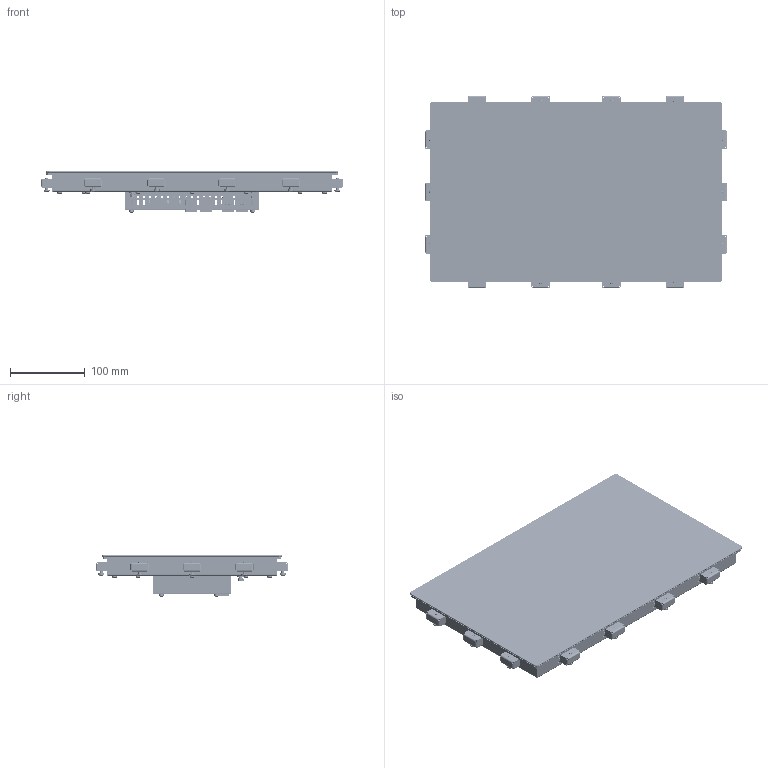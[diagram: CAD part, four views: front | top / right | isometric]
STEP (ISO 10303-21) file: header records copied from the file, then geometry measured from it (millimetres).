
FILE_DESCRIPTION (( 'STEP AP214' ), '1' );
FILE_NAME ('DC2115_BAT_Var2_vereinfacht_Stand16112018.STEP', '2018-11-16T09:29:34', ( '' ), ( '' ), 'SwSTEP 2.0', 'SolidWorks 2018', '' );
FILE_SCHEMA (( 'AUTOMOTIVE_DESIGN' ));
Length unit declared in the file: millimetre
Products named in the file (1): DC2115_BAT_Var2_vereinfacht_Stand16112018
Bounding box: 404.2 x 257.4 x 56.03 mm (x, y, z)
Volume: 479516.2 mm3; surface area: 702543.4 mm2
Topology: 166 solids, 185 shells, 8297 faces, 21981 edges, 14308 vertices
Faces by surface type: plane 6340, cylinder 1552, bspline 178, cone 178, sphere 34, torus 15
Full cylindrical faces by diameter (mm): 0.4 x5, 0.45 x54, 0.6 x2, 0.65 x2, 0.8 x6, 0.9 x40, 1 x20, 1.1 x4, 1.3 x17, 1.4 x2, 1.5 x4, 1.567 x4, 1.6 x8, 1.8 x2, 2 x1, 2.2 x4, 2.3 x5, 2.5 x25, 2.7 x8, 3 x27, 3.1 x2, 3.125 x16, 3.2 x12, 3.3 x21, 3.5 x21, 3.9 x8, 4 x17, 4.22 x16, 4.25 x16, 4.3 x18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
Entity records: 353646 total; most frequent: CARTESIAN_POINT 56838, ORIENTED_EDGE 42488, DIRECTION 39618, EDGE_CURVE 21244, VECTOR 16752, LINE 16752, VERTEX_POINT 14191, AXIS2_PLACEMENT_3D 11433
